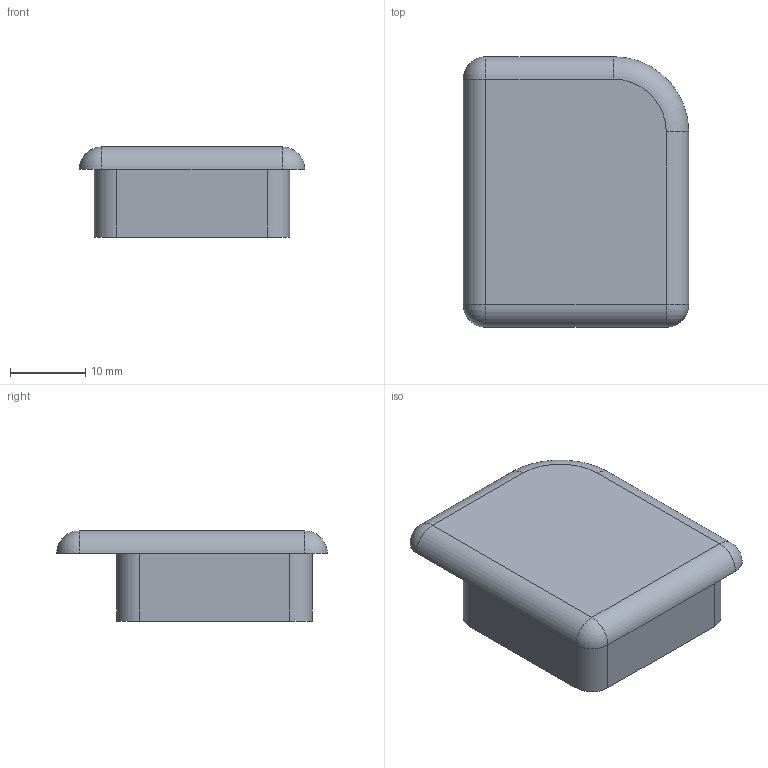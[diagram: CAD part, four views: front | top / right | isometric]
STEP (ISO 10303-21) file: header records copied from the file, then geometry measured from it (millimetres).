
FILE_DESCRIPTION (( 'STEP AP214' ), '1' );
FILE_NAME ('L21114.step', '2024-12-03T16:25:04', ( '' ), ( '' ), 'SwSTEP 2.0', 'SolidWorks 2023', '' );
FILE_SCHEMA (( 'AUTOMOTIVE_DESIGN' ));
Length unit declared in the file: millimetre
Products named in the file (1): L21114
Bounding box: 30 x 36 x 12 mm (x, y, z)
Volume: 4188.4 mm3; surface area: 4015.8 mm2
Topology: 1 solids, 1 shells, 28 faces, 72 edges, 45 vertices
Faces by surface type: plane 12, cylinder 12, sphere 3, torus 1
Entity records: 861 total; most frequent: DIRECTION 156, CARTESIAN_POINT 143, ORIENTED_EDGE 138, EDGE_CURVE 69, AXIS2_PLACEMENT_3D 58, VERTEX_POINT 45, LINE 40, VECTOR 40
